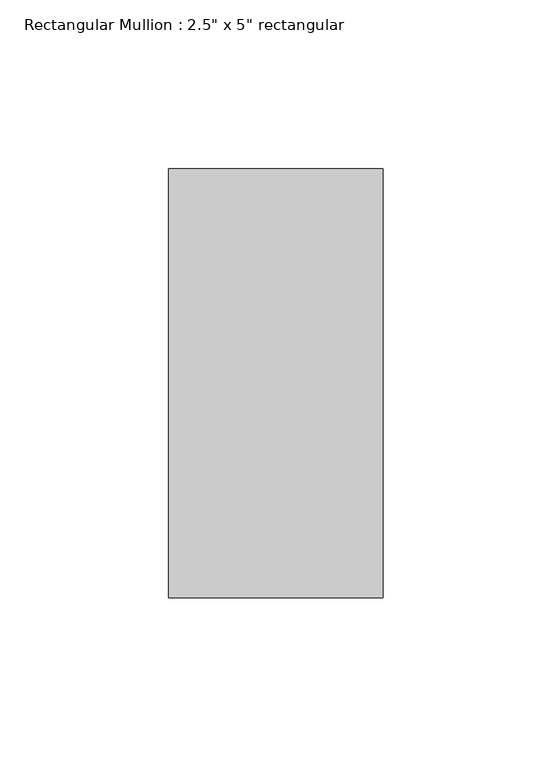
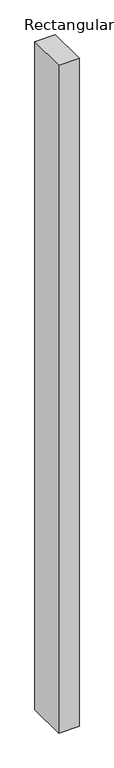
"""IFC4 building model written with IfcOpenShell, lengths in millimetres: member geometry."""

import ifcopenshell
import ifcopenshell.guid

model = None  # the IFC model being written
_history = None  # IfcOwnerHistory: only IFC2X3 demands one
_inside = {}  # id of a spatial element -> (the spatial element, [elements in it])
_under = {}  # id of a project, library or spatial element -> (it, [spatial elements below it])
_declared = {}  # id of a project -> (the project, [libraries it declares])
_typed = {}  # id of a type object -> (the type object, [elements of that type])
_made_of = {}  # id of a material, layer set ... -> (it, [elements and type objects made of it])


def new_model(schema):
    """Start an empty IFC model of exactly this schema.

    Asked for "IFC4X3", IfcOpenShell would pick the latest addendum, in which some entities
    have other attributes; the version numbers below select the first issue.
    IFC2X3 requires an IfcOwnerHistory on every rooted entity: one is made here for all.
    """
    global model, _history
    if schema == "IFC4X3":
        model = ifcopenshell.file(schema_version=(4, 3, 0, 0))
    else:
        model = ifcopenshell.file(schema=schema)
    _inside.clear()
    _under.clear()
    _declared.clear()
    _typed.clear()
    _made_of.clear()
    _history = None
    if model.schema == "IFC2X3":
        org = make("IfcOrganization", Name="unknown")
        user = make(
            "IfcPersonAndOrganization",
            ThePerson=make("IfcPerson", FamilyName="unknown"),
            TheOrganization=org,
        )
        app = make(
            "IfcApplication",
            ApplicationDeveloper=org,
            Version="unknown",
            ApplicationFullName="unknown",
            ApplicationIdentifier="unknown",
        )
        _history = make(
            "IfcOwnerHistory",
            OwningUser=user,
            OwningApplication=app,
            ChangeAction="ADDED",
            CreationDate=0,
        )
    return model


def make(cls, **values):
    """One entity of the class cls with the attributes given. An attribute that is None is left unset."""
    return model.create_entity(
        cls, **{name: value for name, value in values.items() if value is not None}
    )


def rooted(cls, **values):
    """An entity with a GlobalId (a new one), such as an element, a storey or a relation."""
    return make(cls, GlobalId=ifcopenshell.guid.new(), OwnerHistory=_history, **values)


def si_unit(unit_type, name, prefix=None):
    """IfcSIUnit, for example si_unit("LENGTHUNIT", "METRE", prefix="MILLI")."""
    return make("IfcSIUnit", UnitType=unit_type, Prefix=prefix, Name=name)


def assignment(units):
    """IfcUnitAssignment: the units of a project."""
    return None if units is None else make("IfcUnitAssignment", Units=units)


def point(xyz):
    """IfcCartesianPoint."""
    return None if xyz is None else make("IfcCartesianPoint", Coordinates=xyz)


def direction(xyz):
    """IfcDirection."""
    return None if xyz is None else make("IfcDirection", DirectionRatios=xyz)


def frame(location, z_axis=None, x_axis=None):
    """IfcAxis2Placement3D, a coordinate frame: its origin and axes. An axis left out is left unset."""
    return make(
        "IfcAxis2Placement3D",
        Location=point(location),
        Axis=direction(z_axis),
        RefDirection=direction(x_axis),
    )


def origin():
    """The frame at (0, 0, 0) with its axes left unset."""
    return frame((0.0, 0.0, 0.0))


def place(relative_to, where):
    """IfcLocalPlacement: puts the frame where relative to a parent placement (None: the world)."""
    return make(
        "IfcLocalPlacement", PlacementRelTo=relative_to, RelativePlacement=where
    )


def context(
    kind, dimensions, precision=None, world=None, true_north=None, identifier=None
):
    """IfcGeometricRepresentationContext, for example the 3D "Model" context."""
    return make(
        "IfcGeometricRepresentationContext",
        ContextIdentifier=identifier,
        ContextType=kind,
        CoordinateSpaceDimension=dimensions,
        Precision=precision,
        WorldCoordinateSystem=world,
        TrueNorth=true_north,
    )


def project(units=None, contexts=None):
    """IfcProject with its units and contexts."""
    return rooted(
        "IfcProject",
        Name="project",
        RepresentationContexts=contexts,
        UnitsInContext=assignment(units),
    )


def spatial(cls, under=None, at=None, **own):
    """A site, building, storey or space (cls), placed at a placement, below another one or the project."""
    s = rooted(cls, ObjectPlacement=at, **own)
    if under is not None:
        _under.setdefault(under.id(), (under, []))[1].append(s)
    return s


def polyline(points):
    """IfcPolyline through the points."""
    return make("IfcPolyline", Points=[point(p) for p in points])


def outline(outer, holes=None, kind="AREA"):
    """IfcArbitraryClosedProfileDef: a profile drawn as a closed curve; with holes, ...WithVoids."""
    if holes is None:
        return make("IfcArbitraryClosedProfileDef", ProfileType=kind, OuterCurve=outer)
    return make(
        "IfcArbitraryProfileDefWithVoids",
        ProfileType=kind,
        OuterCurve=outer,
        InnerCurves=holes,
    )


def extrude(swept, where, along, depth):
    """IfcExtrudedAreaSolid: the profile swept, set in the frame where, extruded along a direction by depth."""
    return make(
        "IfcExtrudedAreaSolid",
        SweptArea=swept,
        Position=where,
        ExtrudedDirection=direction(along),
        Depth=depth,
    )


def shape(context_of_items, identifier, shape_type, items):
    """IfcShapeRepresentation: the items that make up one representation, for example the "Body"."""
    return make(
        "IfcShapeRepresentation",
        ContextOfItems=context_of_items,
        RepresentationIdentifier=identifier,
        RepresentationType=shape_type,
        Items=items,
    )


def source(mapping_origin, context_of_items, identifier, shape_type, items):
    """IfcRepresentationMap: a shape defined once, which mapped items show again and again."""
    return make(
        "IfcRepresentationMap",
        MappingOrigin=mapping_origin,
        MappedRepresentation=shape(context_of_items, identifier, shape_type, items),
    )


def transform(
    local_origin,
    x_axis=None,
    y_axis=None,
    z_axis=None,
    scale=None,
    scale2=None,
    scale3=None,
    uniform=True,
):
    """IfcCartesianTransformationOperator3D, or its non-uniform kind. x_axis, y_axis, z_axis: its Axis1, 2, 3."""
    if uniform:
        return make(
            "IfcCartesianTransformationOperator3D",
            Axis1=direction(x_axis),
            Axis2=direction(y_axis),
            LocalOrigin=point(local_origin),
            Scale=scale,
            Axis3=direction(z_axis),
        )
    return make(
        "IfcCartesianTransformationOperator3DnonUniform",
        Axis1=direction(x_axis),
        Axis2=direction(y_axis),
        LocalOrigin=point(local_origin),
        Scale=scale,
        Axis3=direction(z_axis),
        Scale2=scale2,
        Scale3=scale3,
    )


def mapped(mapping_source, mapping_target):
    """IfcMappedItem: shows the shape of a source again, moved by a transform."""
    return make(
        "IfcMappedItem", MappingSource=mapping_source, MappingTarget=mapping_target
    )


def made_of(thing, what):
    """Note that an element or type object is made of a material, layer set ...; save() writes the relation."""
    if what is not None:
        _made_of.setdefault(what.id(), (what, []))[1].append(thing)
    return thing


def element(
    cls,
    number,
    at=None,
    inside=None,
    cuts=None,
    type_object=None,
    material=None,
    context=None,
    identifier="Body",
    shape_type=None,
    held_by="IfcProductDefinitionShape",
    body=None,
    shapes=None,
    **own,
):
    """One element of the class cls, such as IfcWall. Its Tag is "e" and its number.

    at: its placement. inside: the storey or other place that contains it. cuts: it is an
    opening in that element (IfcRelVoidsElement). A single representation is given by context,
    identifier, shape_type and body (its items); several are given by shapes. held_by: the class
    of the entity that holds the representations. save() writes the other relations.
    """
    e = rooted(cls, Tag="e%d" % number, ObjectPlacement=at, **own)
    if body is not None:
        shapes = [shape(context, identifier, shape_type, body)]
    if shapes is not None:
        e.Representation = make(held_by, Representations=shapes)
    if inside is not None:
        _inside.setdefault(inside.id(), (inside, []))[1].append(e)
    if cuts is not None:
        rooted(
            "IfcRelVoidsElement", RelatingBuildingElement=cuts, RelatedOpeningElement=e
        )
    if type_object is not None:
        _typed.setdefault(type_object.id(), (type_object, []))[1].append(e)
    return made_of(e, material)


def aggregate(whole, parts):
    """IfcRelAggregates: a whole, such as a stair, and the parts it consists of."""
    return rooted("IfcRelAggregates", RelatingObject=whole, RelatedObjects=parts)


def save(model, path):
    """Write the relations noted so far, then the file.

    IfcRelAggregates (storeys below a building ...), IfcRelContainedInSpatialStructure (elements
    in a storey), IfcRelDefinesByType, IfcRelAssociatesMaterial and IfcRelDeclares: one each for
    every whole, place, type object, material and project.
    """
    for whole, parts in _under.values():
        aggregate(whole, parts)
    for where, things in _inside.values():
        rooted(
            "IfcRelContainedInSpatialStructure",
            RelatedElements=things,
            RelatingStructure=where,
        )
    for kind, things in _typed.values():
        rooted("IfcRelDefinesByType", RelatedObjects=things, RelatingType=kind)
    for what, things in _made_of.values():
        rooted("IfcRelAssociatesMaterial", RelatedObjects=things, RelatingMaterial=what)
    for by, libraries in _declared.values():
        rooted("IfcRelDeclares", RelatingContext=by, RelatedDefinitions=libraries)
    model.write(path)


def member_f51eb1c8(model_context):
    return source(origin(), model_context, "Body", "SweptSolid", [
        extrude(outline(polyline([(31.75, 63.5), (31.75, -63.5), (-31.75, -63.5), (-31.75, 63.5), (31.75, 63.5)])), frame((0.0, 0.0, -2190.75), z_axis=(0.0, 0.0, 1.0), x_axis=(1.0, 0.0, 0.0)), (0.0, 0.0, 1.0), 2190.75),
    ])


if __name__ == "__main__":
    model = new_model("IFC4")
    model_context = context("Model", 3, world=origin())
    ifc_project = project(units=[si_unit("LENGTHUNIT", "METRE", prefix="MILLI")], contexts=[model_context])
    site = spatial("IfcSite", under=ifc_project)
    building = spatial("IfcBuilding", under=site)
    placement = place(None, origin())
    member_shape = member_f51eb1c8(model_context)
    element("IfcMember", 1, ObjectType="Rectangular Mullion : 2.5\" x 5\" rectangular", at=placement, inside=building, context=model_context, shape_type="MappedRepresentation", body=[
        mapped(member_shape, transform((0.0, 0.0, 0.0), x_axis=(1.0, 0.0, 0.0), y_axis=(0.0, 1.0, 0.0), z_axis=(0.0, 0.0, 1.0))),
    ])
    save(model, "model.ifc")
